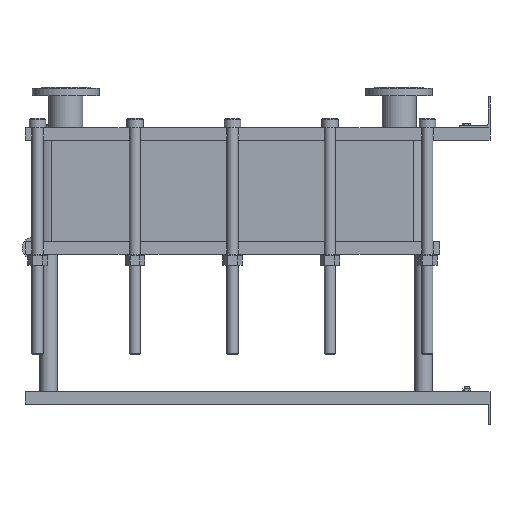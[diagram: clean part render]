
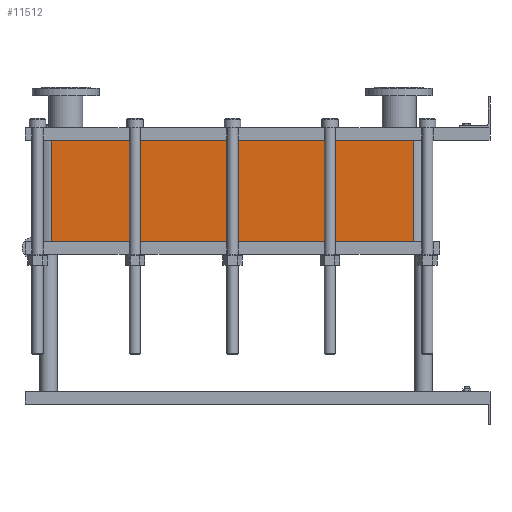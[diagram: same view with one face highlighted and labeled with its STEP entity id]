
A CAD part, left-side view. The second image highlights one B-rep face of the part: STEP entity #11512.
In plain terms, the highlighted planar face has unit normal (-1, 0, 0).
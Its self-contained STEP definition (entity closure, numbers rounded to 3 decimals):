
#1129=LINE('',#23232,#2102);
#1130=LINE('',#23236,#2103);
#1131=LINE('',#23238,#2104);
#1132=LINE('',#23239,#2105);
#2102=VECTOR('',#15887,10.);
#2103=VECTOR('',#15892,10.);
#2104=VECTOR('',#15893,10.);
#2105=VECTOR('',#15894,10.);
#3267=FACE_OUTER_BOUND('',#4093,.T.);
#4093=EDGE_LOOP('',(#10103,#10104,#10105,#10106));
#5642=VERTEX_POINT('',#23229);
#5643=VERTEX_POINT('',#23231);
#5644=VERTEX_POINT('',#23235);
#5645=VERTEX_POINT('',#23237);
#7159=EDGE_CURVE('',#5643,#5642,#1129,.T.);
#7161=EDGE_CURVE('',#5642,#5644,#1130,.T.);
#7162=EDGE_CURVE('',#5645,#5644,#1131,.T.);
#7163=EDGE_CURVE('',#5645,#5643,#1132,.T.);
#10103=ORIENTED_EDGE('',*,*,#7161,.T.);
#10104=ORIENTED_EDGE('',*,*,#7162,.F.);
#10105=ORIENTED_EDGE('',*,*,#7163,.T.);
#10106=ORIENTED_EDGE('',*,*,#7159,.T.);
#10857=PLANE('',#12751);
#11512=ADVANCED_FACE('',(#3267),#10857,.T.);
#12751=AXIS2_PLACEMENT_3D('',#23234,#15890,#15891);
#15887=DIRECTION('',(0.,0.,-1.));
#15890=DIRECTION('center_axis',(-1.,0.,0.));
#15891=DIRECTION('ref_axis',(0.,1.,0.));
#15892=DIRECTION('',(0.,-1.,0.));
#15893=DIRECTION('',(0.,0.,-1.));
#15894=DIRECTION('',(0.,1.,0.));
#23229=CARTESIAN_POINT('',(-200.,1414.,-327.75));
#23231=CARTESIAN_POINT('',(-200.,1414.,0.));
#23232=CARTESIAN_POINT('',(-200.,1414.,0.));
#23234=CARTESIAN_POINT('Origin',(-200.,248.,0.));
#23235=CARTESIAN_POINT('',(-200.,248.,-327.75));
#23236=CARTESIAN_POINT('',(-200.,539.5,-327.75));
#23237=CARTESIAN_POINT('',(-200.,248.,0.));
#23238=CARTESIAN_POINT('',(-200.,248.,0.));
#23239=CARTESIAN_POINT('',(-200.,248.,0.));
